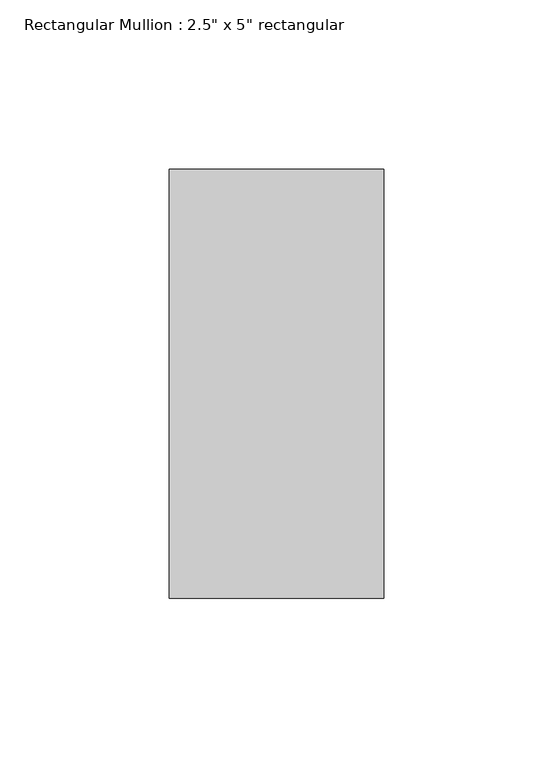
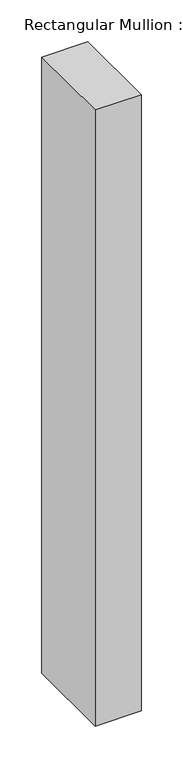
"""IFC4 building model written with IfcOpenShell, lengths in millimetres: member geometry."""

from ifc_helpers import new_model, si_unit, frame, origin, place, context, project, spatial, polyline, outline, extrude, source, transform, mapped, element, save


def member_802a9064(model_context):
    return source(origin(), model_context, "Body", "SweptSolid", [
        extrude(outline(polyline([(0.0, 50.8), (0.0, -76.2), (-63.5, -76.2), (-63.5, 50.8), (0.0, 50.8)])), frame((0.0, 0.0, -898.6561563), z_axis=(0.0, 0.0, 1.0), x_axis=(1.0, 0.0, 0.0)), (0.0, 0.0, 1.0), 898.6561563),
    ])


if __name__ == "__main__":
    model = new_model("IFC4")
    model_context = context("Model", 3, world=origin())
    ifc_project = project(units=[si_unit("LENGTHUNIT", "METRE", prefix="MILLI")], contexts=[model_context])
    site = spatial("IfcSite", under=ifc_project)
    building = spatial("IfcBuilding", under=site)
    placement = place(None, origin())
    member_shape = member_802a9064(model_context)
    element("IfcMember", 1, ObjectType="Rectangular Mullion : 2.5\" x 5\" rectangular", at=placement, inside=building, context=model_context, shape_type="MappedRepresentation", body=[
        mapped(member_shape, transform((0.0, 0.0, 0.0), x_axis=(1.0, 0.0, 0.0), y_axis=(0.0, 1.0, 0.0), z_axis=(0.0, 0.0, 1.0))),
    ])
    save(model, "model.ifc")
